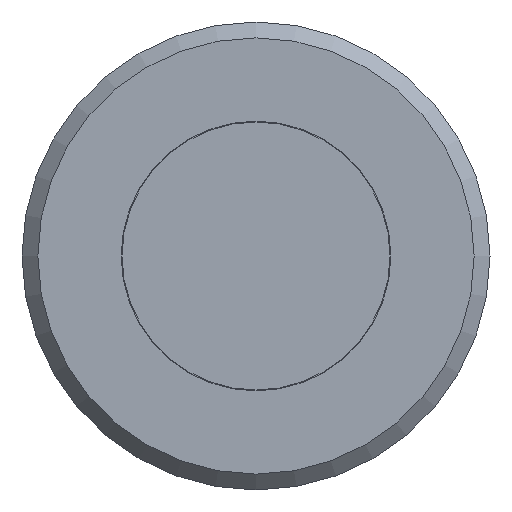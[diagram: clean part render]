
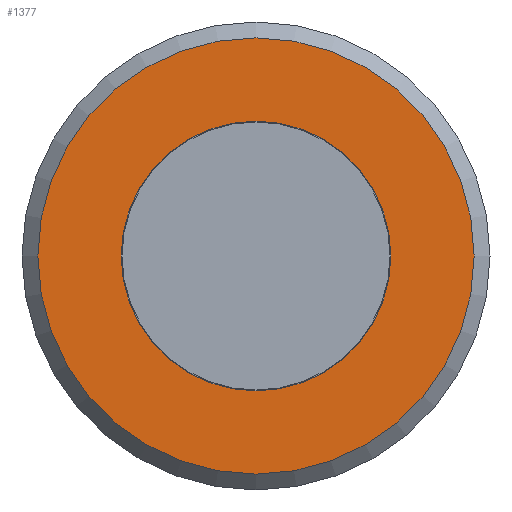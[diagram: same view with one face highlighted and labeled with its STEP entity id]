
A CAD part, left-side view. The second image highlights one B-rep face of the part: STEP entity #1377.
In plain terms, the highlighted planar face has unit normal (-1, 0, 0).
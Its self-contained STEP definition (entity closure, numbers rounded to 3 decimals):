
#37=FACE_BOUND('',#228,.T.);
#64=PLANE('',#1506);
#123=FACE_OUTER_BOUND('',#227,.T.);
#227=EDGE_LOOP('',(#970));
#228=EDGE_LOOP('',(#971));
#536=CIRCLE('',#1505,13.75);
#537=CIRCLE('',#1507,8.5);
#629=VERTEX_POINT('',#2195);
#630=VERTEX_POINT('',#2199);
#760=EDGE_CURVE('',#629,#629,#536,.T.);
#761=EDGE_CURVE('',#630,#630,#537,.T.);
#970=ORIENTED_EDGE('',*,*,#760,.F.);
#971=ORIENTED_EDGE('',*,*,#761,.T.);
#1377=ADVANCED_FACE('',(#123,#37),#64,.T.);
#1505=AXIS2_PLACEMENT_3D('',#2197,#1726,#1727);
#1506=AXIS2_PLACEMENT_3D('',#2198,#1728,#1729);
#1507=AXIS2_PLACEMENT_3D('',#2200,#1730,#1731);
#1726=DIRECTION('center_axis',(1.,0.,0.));
#1727=DIRECTION('ref_axis',(0.,0.,-1.));
#1728=DIRECTION('center_axis',(-1.,0.,0.));
#1729=DIRECTION('ref_axis',(0.,0.,1.));
#1730=DIRECTION('center_axis',(1.,0.,0.));
#1731=DIRECTION('ref_axis',(0.,0.,-1.));
#2195=CARTESIAN_POINT('',(561.334,34.81,-0.001));
#2197=CARTESIAN_POINT('Origin',(561.334,48.56,-0.001));
#2198=CARTESIAN_POINT('Origin',(561.334,62.31,-0.001));
#2199=CARTESIAN_POINT('',(561.334,40.06,-0.001));
#2200=CARTESIAN_POINT('Origin',(561.334,48.56,-0.001));
